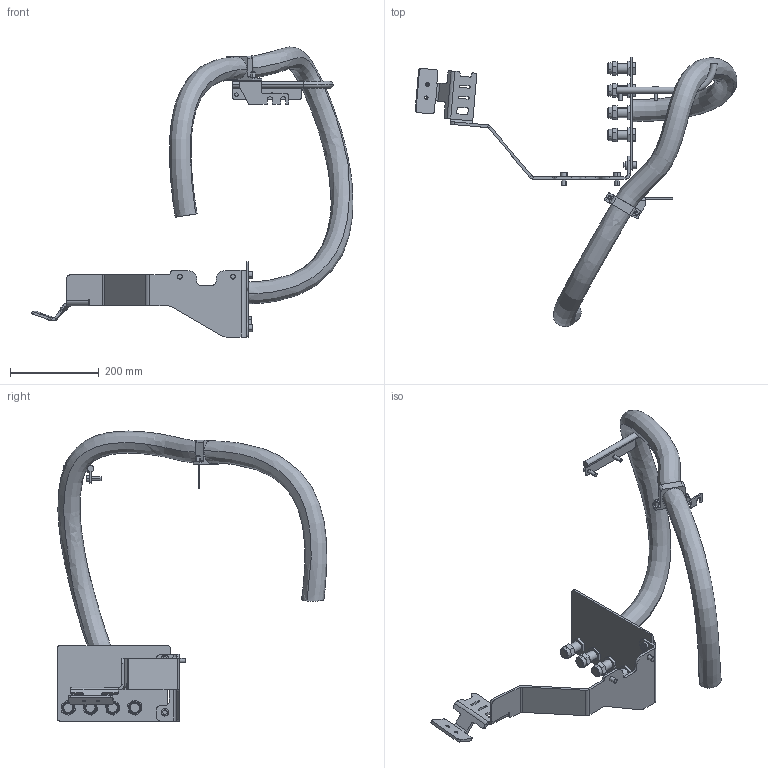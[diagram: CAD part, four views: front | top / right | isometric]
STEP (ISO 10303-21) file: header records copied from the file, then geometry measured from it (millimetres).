
FILE_DESCRIPTION (( 'STEP AP214' ), '1' );
FILE_NAME ('IRB6760-MH3_All_OC_00_LINK03a_CABLE.step', '2025-09-30T13:11:54', ( '' ), ( '' ), 'SwSTEP 2.0', 'SolidWorks 2024', '' );
FILE_SCHEMA (( 'AUTOMOTIVE_DESIGN' ));
Length unit declared in the file: millimetre
Products named in the file (1): IRB6760-MH3_All_OC_00_LINK03a_CABLE
Bounding box: 725 x 607.81 x 653.62 mm (x, y, z)
Volume: 3713486 mm3; surface area: 508385.4 mm2
Topology: 1 solids, 1 shells, 435 faces, 1086 edges, 692 vertices
Faces by surface type: plane 271, cylinder 146, cone 12, bspline 4, torus 2
Entity records: 15439 total; most frequent: CARTESIAN_POINT 4769, DIRECTION 2274, ORIENTED_EDGE 2172, EDGE_CURVE 1086, AXIS2_PLACEMENT_3D 775, LINE 724, VECTOR 724, VERTEX_POINT 692
